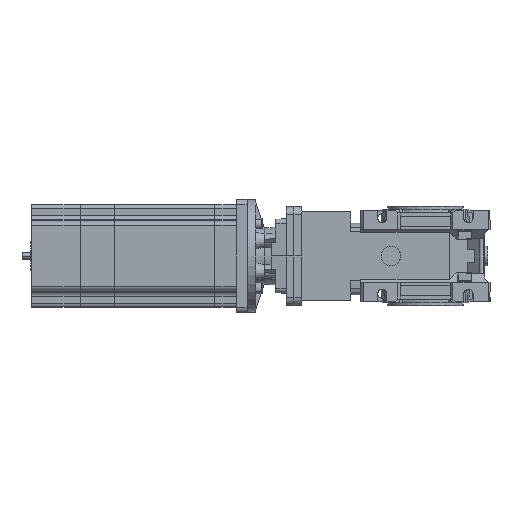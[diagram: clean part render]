
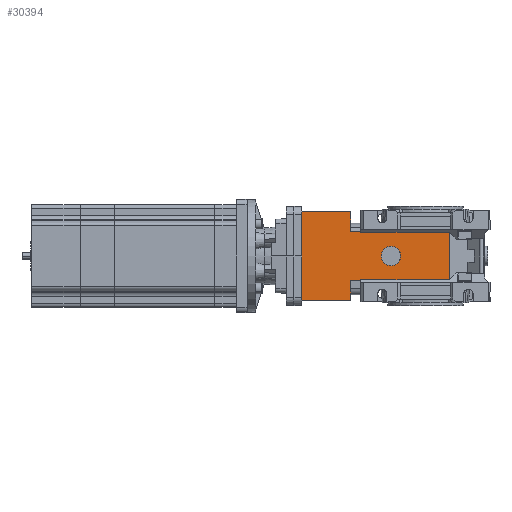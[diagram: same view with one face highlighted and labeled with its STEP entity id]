
A CAD part, front view. The second image highlights one B-rep face of the part: STEP entity #30394.
In plain terms, the highlighted planar face has unit normal (0, -1, 0).
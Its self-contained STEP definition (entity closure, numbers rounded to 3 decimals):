
#1693 = LINE ( 'NONE', #40888, #2844 ) ;
#2101 = DIRECTION ( 'NONE',  ( 0., 0., 1. ) ) ;
#2426 = LINE ( 'NONE', #31407, #33410 ) ;
#2844 = VECTOR ( 'NONE', #34283, 1000. ) ;
#2868 = CARTESIAN_POINT ( 'NONE',  ( 22.282, -55.5, 41. ) ) ;
#3017 = LINE ( 'NONE', #15175, #15215 ) ;
#3148 = DIRECTION ( 'NONE',  ( 1., 0., 0. ) ) ;
#3451 = CARTESIAN_POINT ( 'NONE',  ( 22.282, -55.5, -41. ) ) ;
#3756 = CARTESIAN_POINT ( 'NONE',  ( -60., -55.5, 22. ) ) ;
#4376 = EDGE_CURVE ( 'NONE', #23127, #23608, #21704, .T. ) ;
#4467 = CARTESIAN_POINT ( 'NONE',  ( -23., -55.5, 0. ) ) ;
#5102 = DIRECTION ( 'NONE',  ( -1., 0., 0. ) ) ;
#5653 = AXIS2_PLACEMENT_3D ( 'NONE', #13202, #16191, #29201 ) ;
#6139 = VERTEX_POINT ( 'NONE', #39192 ) ;
#6157 = ORIENTED_EDGE ( 'NONE', *, *, #4376, .F. ) ;
#6349 = CARTESIAN_POINT ( 'NONE',  ( 22.282, -55.5, 41. ) ) ;
#6848 = ORIENTED_EDGE ( 'NONE', *, *, #26662, .F. ) ;
#7070 = AXIS2_PLACEMENT_3D ( 'NONE', #11994, #33575, #30401 ) ;
#7202 = CARTESIAN_POINT ( 'NONE',  ( 22.282, -55.5, 22. ) ) ;
#7425 = VERTEX_POINT ( 'NONE', #4467 ) ;
#7567 = EDGE_LOOP ( 'NONE', ( #27594, #39848 ) ) ;
#7857 = VECTOR ( 'NONE', #5102, 1000. ) ;
#8357 = EDGE_CURVE ( 'NONE', #41582, #28954, #2426, .T. ) ;
#8634 = EDGE_CURVE ( 'NONE', #23608, #6139, #1693, .T. ) ;
#9346 = VECTOR ( 'NONE', #23484, 1000. ) ;
#9729 = CIRCLE ( 'NONE', #5653, 9. ) ;
#10361 = VECTOR ( 'NONE', #23740, 1000. ) ;
#10507 = CARTESIAN_POINT ( 'NONE',  ( -115., -55.5, 38. ) ) ;
#10621 = VERTEX_POINT ( 'NONE', #7202 ) ;
#10899 = EDGE_CURVE ( 'NONE', #10621, #25793, #28661, .T. ) ;
#11110 = ORIENTED_EDGE ( 'NONE', *, *, #40376, .T. ) ;
#11213 = ORIENTED_EDGE ( 'NONE', *, *, #8634, .F. ) ;
#11392 = CARTESIAN_POINT ( 'NONE',  ( 55., -55.5, 41. ) ) ;
#11399 = DIRECTION ( 'NONE',  ( 0., 0., 1. ) ) ;
#11462 = VECTOR ( 'NONE', #35798, 1000. ) ;
#11994 = CARTESIAN_POINT ( 'NONE',  ( -32., -55.5, 0. ) ) ;
#12357 = CARTESIAN_POINT ( 'NONE',  ( -115., -55.5, 41. ) ) ;
#12373 = CARTESIAN_POINT ( 'NONE',  ( -60., -55.5, -22. ) ) ;
#12757 = VECTOR ( 'NONE', #13330, 1000. ) ;
#12759 = CARTESIAN_POINT ( 'NONE',  ( -69.5, -55.5, 41. ) ) ;
#13202 = CARTESIAN_POINT ( 'NONE',  ( -32., -55.5, 0. ) ) ;
#13330 = DIRECTION ( 'NONE',  ( 0., 0., 1. ) ) ;
#14791 = CARTESIAN_POINT ( 'NONE',  ( 61., -55.5, 22. ) ) ;
#14898 = VERTEX_POINT ( 'NONE', #12357 ) ;
#14915 = EDGE_CURVE ( 'NONE', #41582, #10621, #41568, .T. ) ;
#15063 = AXIS2_PLACEMENT_3D ( 'NONE', #6349, #31910, #3148 ) ;
#15175 = CARTESIAN_POINT ( 'NONE',  ( 22.282, -55.5, 23. ) ) ;
#15215 = VECTOR ( 'NONE', #28183, 1000. ) ;
#15752 = CARTESIAN_POINT ( 'NONE',  ( 22.282, -55.5, -22. ) ) ;
#16191 = DIRECTION ( 'NONE',  ( 0., -1., 0. ) ) ;
#16368 = VERTEX_POINT ( 'NONE', #12373 ) ;
#16664 = CARTESIAN_POINT ( 'NONE',  ( -41., -55.5, 0. ) ) ;
#16949 = CARTESIAN_POINT ( 'NONE',  ( -60., -55.5, 41. ) ) ;
#17529 = EDGE_CURVE ( 'NONE', #28954, #23520, #3017, .T. ) ;
#17666 = LINE ( 'NONE', #34058, #36444 ) ;
#18486 = FACE_OUTER_BOUND ( 'NONE', #42123, .T. ) ;
#19228 = ORIENTED_EDGE ( 'NONE', *, *, #10899, .F. ) ;
#19820 = CARTESIAN_POINT ( 'NONE',  ( 61., -55.5, -22. ) ) ;
#20463 = VECTOR ( 'NONE', #41995, 1000. ) ;
#21704 = LINE ( 'NONE', #37249, #7857 ) ;
#22280 = ORIENTED_EDGE ( 'NONE', *, *, #32725, .F. ) ;
#22400 = VERTEX_POINT ( 'NONE', #12759 ) ;
#22789 = CARTESIAN_POINT ( 'NONE',  ( -115., -55.5, -41. ) ) ;
#23127 = VERTEX_POINT ( 'NONE', #41598 ) ;
#23484 = DIRECTION ( 'NONE',  ( 0., 0., 1. ) ) ;
#23520 = VERTEX_POINT ( 'NONE', #35264 ) ;
#23553 = LINE ( 'NONE', #16949, #12757 ) ;
#23608 = VERTEX_POINT ( 'NONE', #27409 ) ;
#23740 = DIRECTION ( 'NONE',  ( 1., 0., 0. ) ) ;
#23760 = ORIENTED_EDGE ( 'NONE', *, *, #40752, .F. ) ;
#25285 = ORIENTED_EDGE ( 'NONE', *, *, #8357, .T. ) ;
#25422 = CIRCLE ( 'NONE', #7070, 9. ) ;
#25766 = CARTESIAN_POINT ( 'NONE',  ( -60., -55.5, 23. ) ) ;
#25793 = VERTEX_POINT ( 'NONE', #15752 ) ;
#26662 = EDGE_CURVE ( 'NONE', #35752, #14898, #26680, .T. ) ;
#26680 = LINE ( 'NONE', #10507, #9346 ) ;
#27409 = CARTESIAN_POINT ( 'NONE',  ( -69.5, -55.5, -23. ) ) ;
#27594 = ORIENTED_EDGE ( 'NONE', *, *, #35193, .F. ) ;
#28183 = DIRECTION ( 'NONE',  ( -1., 0., 0. ) ) ;
#28309 = FACE_BOUND ( 'NONE', #7567, .T. ) ;
#28661 = LINE ( 'NONE', #2868, #29574 ) ;
#28954 = VERTEX_POINT ( 'NONE', #25766 ) ;
#29141 = PLANE ( 'NONE',  #15063 ) ;
#29201 = DIRECTION ( 'NONE',  ( 0., 0., 1. ) ) ;
#29574 = VECTOR ( 'NONE', #35048, 1000. ) ;
#30394 = ADVANCED_FACE ( 'NONE', ( #18486, #28309 ), #29141, .F. ) ;
#30401 = DIRECTION ( 'NONE',  ( 0., 0., 1. ) ) ;
#31407 = CARTESIAN_POINT ( 'NONE',  ( -60., -55.5, 41. ) ) ;
#31910 = DIRECTION ( 'NONE',  ( 0., 1., 0. ) ) ;
#31924 = VERTEX_POINT ( 'NONE', #16664 ) ;
#31930 = EDGE_CURVE ( 'NONE', #35752, #6139, #35821, .T. ) ;
#31983 = LINE ( 'NONE', #19820, #11462 ) ;
#32018 = ORIENTED_EDGE ( 'NONE', *, *, #17529, .T. ) ;
#32725 = EDGE_CURVE ( 'NONE', #14898, #22400, #37146, .T. ) ;
#33261 = EDGE_CURVE ( 'NONE', #31924, #7425, #9729, .T. ) ;
#33410 = VECTOR ( 'NONE', #11399, 1000. ) ;
#33575 = DIRECTION ( 'NONE',  ( 0., -1., 0. ) ) ;
#34058 = CARTESIAN_POINT ( 'NONE',  ( -69.5, -55.5, 41. ) ) ;
#34283 = DIRECTION ( 'NONE',  ( 0., 0., -1. ) ) ;
#35048 = DIRECTION ( 'NONE',  ( 0., 0., -1. ) ) ;
#35193 = EDGE_CURVE ( 'NONE', #7425, #31924, #25422, .T. ) ;
#35264 = CARTESIAN_POINT ( 'NONE',  ( -69.5, -55.5, 23. ) ) ;
#35606 = DIRECTION ( 'NONE',  ( 1., 0., 0. ) ) ;
#35752 = VERTEX_POINT ( 'NONE', #22789 ) ;
#35798 = DIRECTION ( 'NONE',  ( -1., 0., 0. ) ) ;
#35821 = LINE ( 'NONE', #3451, #41600 ) ;
#36444 = VECTOR ( 'NONE', #2101, 1000. ) ;
#37146 = LINE ( 'NONE', #11392, #10361 ) ;
#37249 = CARTESIAN_POINT ( 'NONE',  ( -60., -55.5, -23. ) ) ;
#38304 = ORIENTED_EDGE ( 'NONE', *, *, #14915, .F. ) ;
#38563 = EDGE_CURVE ( 'NONE', #23520, #22400, #17666, .T. ) ;
#39192 = CARTESIAN_POINT ( 'NONE',  ( -69.5, -55.5, -41. ) ) ;
#39394 = ORIENTED_EDGE ( 'NONE', *, *, #31930, .T. ) ;
#39630 = ORIENTED_EDGE ( 'NONE', *, *, #38563, .T. ) ;
#39848 = ORIENTED_EDGE ( 'NONE', *, *, #33261, .F. ) ;
#40376 = EDGE_CURVE ( 'NONE', #23127, #16368, #23553, .T. ) ;
#40752 = EDGE_CURVE ( 'NONE', #25793, #16368, #31983, .T. ) ;
#40888 = CARTESIAN_POINT ( 'NONE',  ( -69.5, -55.5, -23. ) ) ;
#41568 = LINE ( 'NONE', #14791, #20463 ) ;
#41582 = VERTEX_POINT ( 'NONE', #3756 ) ;
#41598 = CARTESIAN_POINT ( 'NONE',  ( -60., -55.5, -23. ) ) ;
#41600 = VECTOR ( 'NONE', #35606, 1000. ) ;
#41995 = DIRECTION ( 'NONE',  ( 1., 0., 0. ) ) ;
#42123 = EDGE_LOOP ( 'NONE', ( #22280, #6848, #39394, #11213, #6157, #11110, #23760, #19228, #38304, #25285, #32018, #39630 ) ) ;
